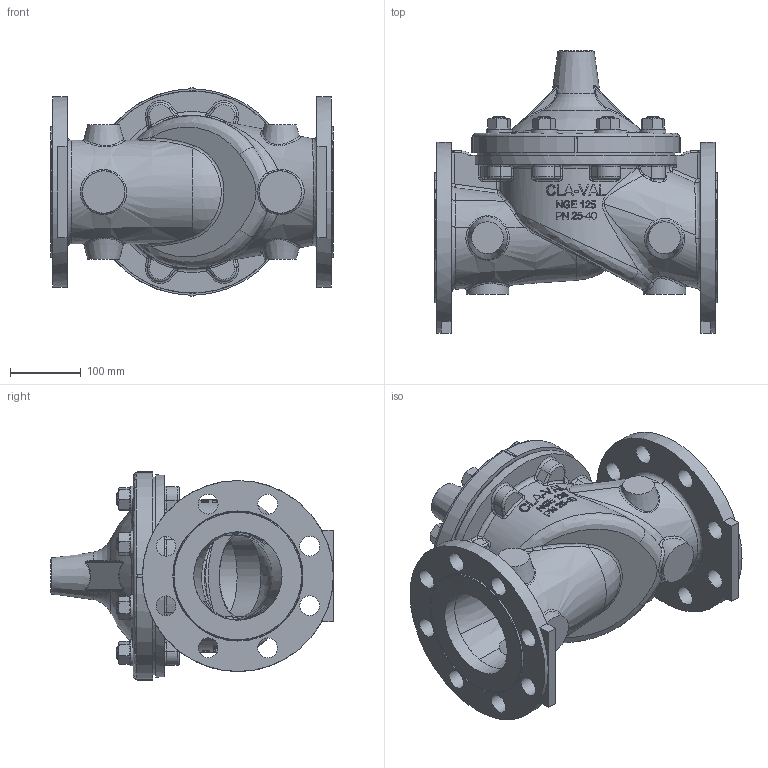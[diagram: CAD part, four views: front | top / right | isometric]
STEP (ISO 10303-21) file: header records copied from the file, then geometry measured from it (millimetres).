
FILE_DESCRIPTION(/* description */ (''),/* implementation_level */ '2;1');
FILE_NAME(/* name */ 'G:\Doc_Liberes\SymbolesCAD\Modeles_3D\FichierSTP\VanneDeBase\NGE125-40RF.stp',/* time_stamp */ '2023-08-18T11:03:48+02:00',/* author */ ('theo'),/* organization */ (''),/* preprocessor_version */ 'ST-DEVELOPER v18.1',/* originating_system */ 'Autodesk Inventor 2022',/* authorisation */ '');
FILE_SCHEMA (('AUTOMOTIVE_DESIGN { 1 0 10303 214 3 1 1 }'));
Products named in the file (1): NGE125-40_Simplifier_1
Bounding box: 400 x 399.78 x 295 mm (x, y, z)
Volume: 7300664.8 mm3; surface area: 980117.1 mm2
Topology: 1 solids, 1 shells, 1904 faces, 5198 edges, 3389 vertices
Faces by surface type: plane 759, bspline 500, cone 359, cylinder 214, torus 67, sphere 5
Full cylindrical faces by diameter (mm): 19.05 x16, 22 x1, 28 x16, 37.287 x8, 50.8 x1, 60 x2, 120.8 x1, 125 x2, 130 x1, 133.6 x2, 184 x2, 270 x2, 279 x1
Entity records: 98795 total; most frequent: CARTESIAN_POINT 54554, ORIENTED_EDGE 10384, DIRECTION 7651, EDGE_CURVE 5192, VERTEX_POINT 3389, AXIS2_PLACEMENT_3D 2983, EDGE_LOOP 2053, FACE_OUTER_BOUND 1904
